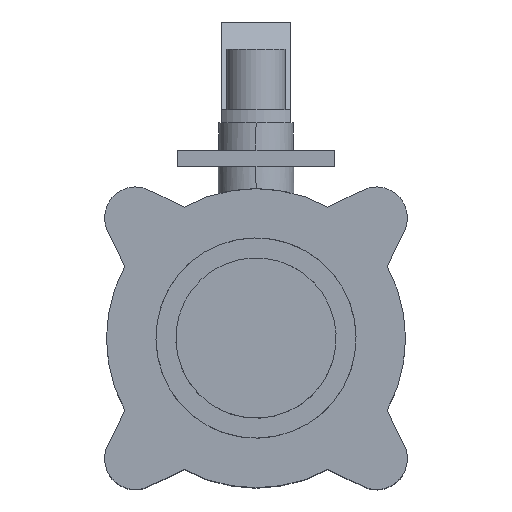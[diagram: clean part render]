
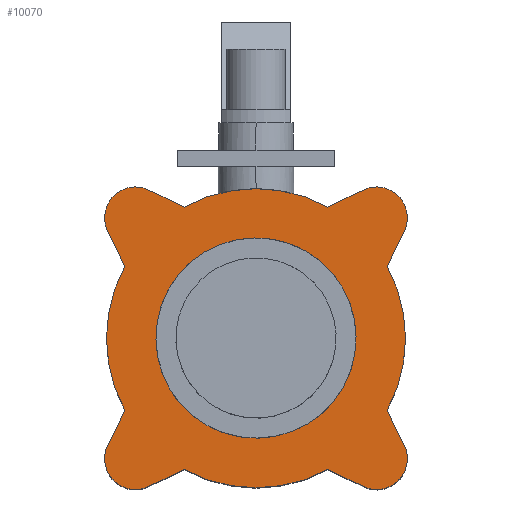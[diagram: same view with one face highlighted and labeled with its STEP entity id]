
A CAD part, top view. The second image highlights one B-rep face of the part: STEP entity #10070.
In plain terms, the highlighted planar face has unit normal (0, 0, 1) as drawn and (0, 1, 0) by its records, which use the part's own axes.
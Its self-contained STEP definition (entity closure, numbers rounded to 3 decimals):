
#1650=CARTESIAN_POINT('',(0.,13.,-41.492));
#1660=DIRECTION('',(-0.946,0.,0.326));
#1670=VECTOR('',#1660,1.);
#1680=LINE('',#1650,#1670);
#1690=CARTESIAN_POINT('',(-65.288,13.,-19.012));
#1700=VERTEX_POINT('',#1690);
#1710=CARTESIAN_POINT('',(-82.058,13.,-13.237));
#1720=VERTEX_POINT('',#1710);
#1730=EDGE_CURVE('',#1700,#1720,#1680,.T.);
#1960=CARTESIAN_POINT('',(77.5,13.,0.));
#1970=DIRECTION('',(0.,-1.,0.));
#1980=DIRECTION('',(0.,0.,-1.));
#1990=AXIS2_PLACEMENT_3D('',#1960,#1970,#1980);
#2000=CIRCLE('',#1990,14.);
#2010=CARTESIAN_POINT('',(82.058,13.,-13.237));
#2020=VERTEX_POINT('',#2010);
#2030=CARTESIAN_POINT('',(82.058,13.,13.237));
#2040=VERTEX_POINT('',#2030);
#2050=EDGE_CURVE('',#2020,#2040,#2000,.T.);
#2280=CARTESIAN_POINT('',(0.,13.,77.5));
#2290=DIRECTION('',(0.,-1.,0.));
#2300=DIRECTION('',(0.,0.,-1.));
#2310=AXIS2_PLACEMENT_3D('',#2280,#2290,#2300);
#2320=CIRCLE('',#2310,14.);
#2330=CARTESIAN_POINT('',(13.237,13.,82.058));
#2340=VERTEX_POINT('',#2330);
#2350=CARTESIAN_POINT('',(-13.237,13.,82.058));
#2360=VERTEX_POINT('',#2350);
#2370=EDGE_CURVE('',#2340,#2360,#2320,.T.);
#2600=CARTESIAN_POINT('',(-77.5,13.,0.));
#2610=DIRECTION('',(0.,-1.,0.));
#2620=DIRECTION('',(0.,0.,-1.));
#2630=AXIS2_PLACEMENT_3D('',#2600,#2610,#2620);
#2640=CIRCLE('',#2630,14.);
#2650=CARTESIAN_POINT('',(-82.058,13.,13.237));
#2660=VERTEX_POINT('',#2650);
#2670=EDGE_CURVE('',#2660,#1720,#2640,.T.);
#4410=CARTESIAN_POINT('',(0.,13.,-41.492));
#4420=DIRECTION('',(0.946,0.,0.326));
#4430=VECTOR('',#4420,1.);
#4440=LINE('',#4410,#4430);
#4450=CARTESIAN_POINT('',(65.288,13.,-19.012));
#4460=VERTEX_POINT('',#4450);
#4470=EDGE_CURVE('',#4460,#2020,#4440,.T.);
#4650=CARTESIAN_POINT('',(-41.492,13.,0.));
#4660=DIRECTION('',(0.326,0.,0.946));
#4670=VECTOR('',#4660,1.);
#4680=LINE('',#4650,#4670);
#4690=CARTESIAN_POINT('',(-19.012,13.,65.288));
#4700=VERTEX_POINT('',#4690);
#4710=EDGE_CURVE('',#4700,#2360,#4680,.T.);
#5360=CARTESIAN_POINT('',(0.,13.,41.492));
#5370=DIRECTION('',(0.946,0.,-0.326));
#5380=VECTOR('',#5370,1.);
#5390=LINE('',#5360,#5380);
#5400=CARTESIAN_POINT('',(65.288,13.,19.012));
#5410=VERTEX_POINT('',#5400);
#5420=EDGE_CURVE('',#5410,#2040,#5390,.T.);
#5600=CARTESIAN_POINT('',(0.,13.,41.492));
#5610=DIRECTION('',(0.946,0.,0.326));
#5620=VECTOR('',#5610,1.);
#5630=LINE('',#5600,#5620);
#5640=CARTESIAN_POINT('',(-65.288,13.,19.012));
#5650=VERTEX_POINT('',#5640);
#5660=EDGE_CURVE('',#2660,#5650,#5630,.T.);
#7340=CARTESIAN_POINT('',(-13.237,13.,-82.058));
#7350=VERTEX_POINT('',#7340);
#7430=CARTESIAN_POINT('',(13.237,13.,-82.058));
#7440=VERTEX_POINT('',#7430);
#7470=CARTESIAN_POINT('',(0.,13.,-77.5));
#7480=DIRECTION('',(0.,-1.,0.));
#7490=DIRECTION('',(0.,0.,-1.));
#7500=AXIS2_PLACEMENT_3D('',#7470,#7480,#7490);
#7510=CIRCLE('',#7500,14.);
#7520=EDGE_CURVE('',#7350,#7440,#7510,.T.);
#7860=CARTESIAN_POINT('',(41.492,13.,0.));
#7870=DIRECTION('',(0.326,0.,0.946));
#7880=VECTOR('',#7870,1.);
#7890=LINE('',#7860,#7880);
#7900=CARTESIAN_POINT('',(19.012,13.,-65.288));
#7910=VERTEX_POINT('',#7900);
#7920=EDGE_CURVE('',#7440,#7910,#7890,.T.);
#8800=CARTESIAN_POINT('',(0.,13.,0.));
#8810=DIRECTION('',(0.,-1.,0.));
#8820=DIRECTION('',(0.,0.,-1.));
#8830=AXIS2_PLACEMENT_3D('',#8800,#8810,#8820);
#8840=CIRCLE('',#8830,68.);
#8850=EDGE_CURVE('',#7910,#4460,#8840,.T.);
#9010=CARTESIAN_POINT('',(19.012,13.,65.288));
#9020=VERTEX_POINT('',#9010);
#9050=CARTESIAN_POINT('',(0.,13.,0.));
#9060=DIRECTION('',(0.,-1.,0.));
#9070=DIRECTION('',(0.,0.,-1.));
#9080=AXIS2_PLACEMENT_3D('',#9050,#9060,#9070);
#9090=CIRCLE('',#9080,68.);
#9100=EDGE_CURVE('',#5410,#9020,#9090,.T.);
#9230=CARTESIAN_POINT('',(0.,13.,0.));
#9240=DIRECTION('',(0.,-1.,0.));
#9250=DIRECTION('',(0.,0.,-1.));
#9260=AXIS2_PLACEMENT_3D('',#9230,#9240,#9250);
#9270=CIRCLE('',#9260,68.);
#9280=EDGE_CURVE('',#4700,#5650,#9270,.T.);
#9440=CARTESIAN_POINT('',(-19.012,13.,-65.288));
#9450=VERTEX_POINT('',#9440);
#9480=CARTESIAN_POINT('',(0.,13.,0.));
#9490=DIRECTION('',(0.,-1.,0.));
#9500=DIRECTION('',(0.,0.,-1.));
#9510=AXIS2_PLACEMENT_3D('',#9480,#9490,#9500);
#9520=CIRCLE('',#9510,68.);
#9530=EDGE_CURVE('',#1700,#9450,#9520,.T.);
#9590=CARTESIAN_POINT('',(0.,13.,0.));
#9600=DIRECTION('',(0.,1.,0.));
#9610=DIRECTION('',(0.,0.,1.));
#9620=AXIS2_PLACEMENT_3D('',#9590,#9600,#9610);
#9630=PLANE('',#9620);
#9640=ORIENTED_EDGE('',*,*,#2050,.F.);
#9650=ORIENTED_EDGE('',*,*,#5420,.T.);
#9660=ORIENTED_EDGE('',*,*,#9100,.F.);
#9670=CARTESIAN_POINT('',(41.492,13.,0.));
#9680=DIRECTION('',(0.326,0.,-0.946));
#9690=VECTOR('',#9680,1.);
#9700=LINE('',#9670,#9690);
#9710=EDGE_CURVE('',#2340,#9020,#9700,.T.);
#9720=ORIENTED_EDGE('',*,*,#9710,.T.);
#9730=ORIENTED_EDGE('',*,*,#2370,.F.);
#9740=ORIENTED_EDGE('',*,*,#4710,.T.);
#9750=ORIENTED_EDGE('',*,*,#9280,.F.);
#9760=ORIENTED_EDGE('',*,*,#5660,.T.);
#9770=ORIENTED_EDGE('',*,*,#2670,.F.);
#9780=ORIENTED_EDGE('',*,*,#1730,.T.);
#9790=ORIENTED_EDGE('',*,*,#9530,.F.);
#9800=CARTESIAN_POINT('',(-41.492,13.,0.));
#9810=DIRECTION('',(0.326,0.,-0.946));
#9820=VECTOR('',#9810,1.);
#9830=LINE('',#9800,#9820);
#9840=EDGE_CURVE('',#9450,#7350,#9830,.T.);
#9850=ORIENTED_EDGE('',*,*,#9840,.F.);
#9860=ORIENTED_EDGE('',*,*,#7520,.F.);
#9870=ORIENTED_EDGE('',*,*,#7920,.F.);
#9880=ORIENTED_EDGE('',*,*,#8850,.F.);
#9890=ORIENTED_EDGE('',*,*,#4470,.F.);
#9900=EDGE_LOOP('',(#9890,#9880,#9870,#9860,#9850,#9790,#9780,#9770,
#9760,#9750,#9740,#9730,#9720,#9660,#9650,#9640));
#9910=FACE_OUTER_BOUND('',#9900,.T.);
#9920=CARTESIAN_POINT('',(0.,13.,
0.));
#9930=DIRECTION('',(0.,1.,0.));
#9940=DIRECTION('',(-0.622,0.,
-0.783));
#9950=AXIS2_PLACEMENT_3D('',#9920,#9930,#9940);
#9960=CIRCLE('',#9950,38.05);
#9970=CARTESIAN_POINT('',(-23.659,13.,
-29.8));
#9980=VERTEX_POINT('',#9970);
#9990=CARTESIAN_POINT('',(23.659,13.,
29.8));
#10000=VERTEX_POINT('',#9990);
#10010=EDGE_CURVE('',#9980,#10000,#9960,.T.);
#10020=ORIENTED_EDGE('',*,*,#10010,.F.);
#10030=EDGE_CURVE('',#10000,#9980,#9960,.T.);
#10040=ORIENTED_EDGE('',*,*,#10030,.F.);
#10050=EDGE_LOOP('',(#10040,#10020));
#10060=FACE_BOUND('',#10050,.T.);
#10070=ADVANCED_FACE('',(#9910,#10060),#9630,.T.);
